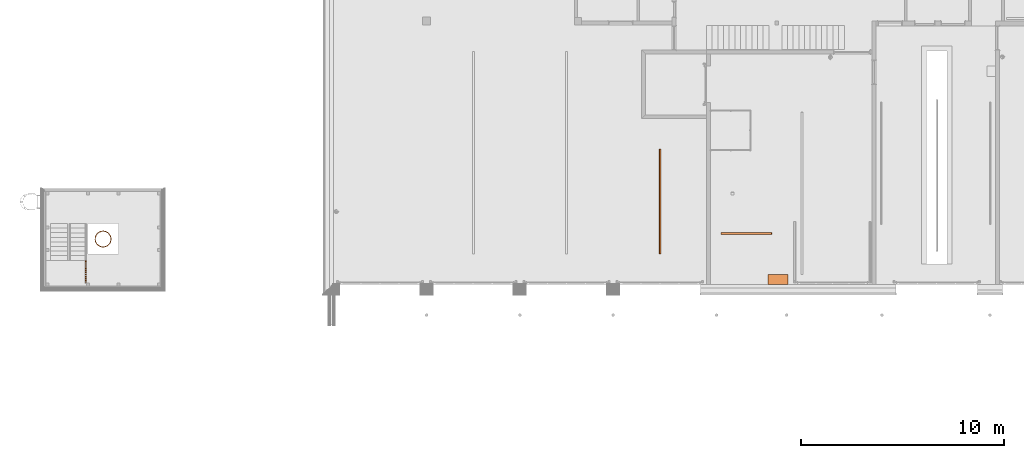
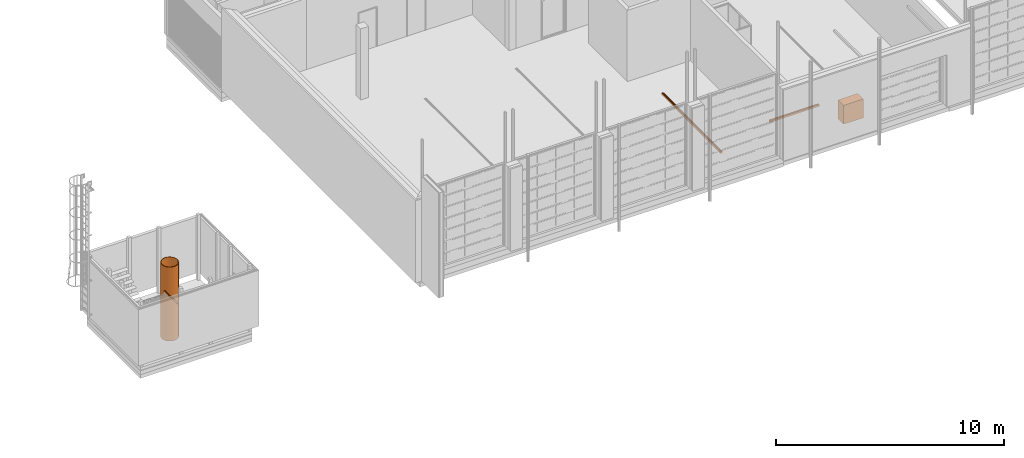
# One storey, part 103 of 112: 5 proxies, 1 element without a shape of its own.
"""IFC2X3 building model written with IfcOpenShell, lengths in millimetres."""

from ifc_helpers import new_model, entity, si_unit, converted_unit, derived_unit, money_unit, direction, frame, origin_with_axes, place, context, subcontext, project, spatial, faceted_brep, material, type_object, element, aggregate, save


model = new_model("IFC2X3")

# Units and contexts
model_context = context("Model", 3, precision=0.01, world=origin_with_axes(), true_north=direction((0.0, 1.0)))
body_context = subcontext(model_context, "Body", "Model", "MODEL_VIEW")
ifc_project = project(units=[si_unit("LENGTHUNIT", "METRE", prefix="MILLI"), si_unit("AREAUNIT", "SQUARE_METRE"), si_unit("VOLUMEUNIT", "CUBIC_METRE"), converted_unit("PLANEANGLEUNIT", "DEGREE", entity("IfcPlaneAngleMeasure", 0.0174532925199), si_unit("PLANEANGLEUNIT", "RADIAN"), dimensions=[0, 0, 0, 0, 0, 0, 0]), si_unit("SOLIDANGLEUNIT", "STERADIAN"), money_unit("EUR"), converted_unit("TIMEUNIT", "Year", entity("IfcTimeMeasure", 31556926.0), si_unit("TIMEUNIT", "SECOND"), dimensions=[0, 0, 1, 0, 0, 0, 0]), si_unit("MASSUNIT", "GRAM", prefix="KILO"), si_unit("THERMODYNAMICTEMPERATUREUNIT", "DEGREE_CELSIUS"), si_unit("LUMINOUSINTENSITYUNIT", "LUMEN"), si_unit("ENERGYUNIT", "JOULE", prefix="MEGA"), derived_unit("THERMALCONDUCTANCEUNIT", [(si_unit("POWERUNIT", "WATT"), 1), (si_unit("LENGTHUNIT", "METRE"), -1), (si_unit("THERMODYNAMICTEMPERATUREUNIT", "KELVIN"), -1)]), derived_unit("SPECIFICHEATCAPACITYUNIT", [(si_unit("ENERGYUNIT", "JOULE"), 1), (si_unit("MASSUNIT", "GRAM", prefix="KILO"), -1), (si_unit("THERMODYNAMICTEMPERATUREUNIT", "KELVIN"), -1)]), derived_unit("MASSDENSITYUNIT", [(si_unit("MASSUNIT", "GRAM", prefix="KILO"), 1), (si_unit("VOLUMEUNIT", "CUBIC_METRE"), -1)])], contexts=[model_context])

# Site, building, storey
site_placement = place(None, origin_with_axes())
site = spatial("IfcSite", under=ifc_project, at=site_placement, Name="Politse- ja Piirivalveameti ning Päästeameti ühishoone", CompositionType="ELEMENT")
building_placement = place(site_placement, origin_with_axes())
building = spatial("IfcBuilding", under=site, at=building_placement, Name="Politse- ja Piirivalveameti ning Päästeameti ühishoone", CompositionType="ELEMENT")
storey_placement = place(building_placement, origin_with_axes())
storey = spatial("IfcBuildingStorey", under=building, at=storey_placement, Name="Esimene korrus", CompositionType="ELEMENT", Elevation=0.0)

# Proxies
building_element_proxy_type_1 = type_object("IfcBuildingElementProxyType", Name="Cube 23", PredefinedType="NOTDEFINED")
proxy_1_placement = place(storey_placement, frame((21434.1436325, 0.0, 500.0), z_axis=(0.0, 0.0, 1.0), x_axis=(1.0, 0.0, 0.0)))
element("IfcBuildingElementProxy", 1, at=proxy_1_placement, inside=storey, type_object=building_element_proxy_type_1, Name="Survepesur", context=body_context, shape_type="Brep", body=[
    faceted_brep([(1000.0, 0.0, 0.0), (0.0, 0.0, 0.0), (0.0, 500.0, 0.0), (1000.0, 500.0, 0.0), (1000.0, 0.0, 1000.0), (0.0, 0.0, 1000.0), (0.0, 500.0, 1000.0), (1000.0, 500.0, 1000.0)], [[[0, 1, 2, 3]], [[1, 0, 4, 5]], [[2, 1, 5, 6]], [[3, 2, 6, 7]], [[0, 3, 7, 4]], [[5, 4, 7, 6]]]),
])
building_element_proxy_type_2 = type_object("IfcBuildingElementProxyType", Name="Grid 23", PredefinedType="NOTDEFINED")
proxy_2_placement = place(storey_placement, frame((21626.7299619, 2458.00929481, -100.0), z_axis=(0.0, 0.0, 1.0), x_axis=(0.0, 1.0, 0.0)))
element("IfcBuildingElementProxy", 2, at=proxy_2_placement, inside=storey, type_object=building_element_proxy_type_2, Name="Äravoolurenn (109)", context=body_context, shape_type="Brep", body=[
    faceted_brep([(0.0, 0.0, 0.0), (5.0, 5.0, 0.0), (5.0, 5.0, 100.0), (0.0, 0.0, 100.0), (0.0, 2500.0, 0.0), (5.0, 2495.0, 0.0), (5.0, 1251.0, 0.0), (5.0, 1249.0, 0.0), (5.0, 1249.0, 100.0), (5.0, 1251.0, 100.0), (5.0, 2495.0, 100.0), (0.0, 2500.0, 100.0)], [[[0, 1, 2, 3]], [[0, 4, 5, 6, 7, 1]], [[1, 7, 8, 2]], [[3, 2, 8, 9, 10, 11]], [[4, 0, 3, 11]], [[5, 4, 11, 10]], [[6, 5, 10, 9]], [[7, 6, 9, 8]]]),
    faceted_brep([(100.0, 2500.0, 0.0), (95.0, 2495.0, 0.0), (95.0, 2495.0, 100.0), (100.0, 2500.0, 100.0), (100.0, 0.0, 0.0), (95.0, 5.0, 0.0), (95.0, 1249.0, 0.0), (95.0, 1251.0, 0.0), (95.0, 1251.0, 100.0), (95.0, 1249.0, 100.0), (95.0, 5.0, 100.0), (100.0, 0.0, 100.0)], [[[0, 1, 2, 3]], [[0, 4, 5, 6, 7, 1]], [[1, 7, 8, 2]], [[3, 2, 8, 9, 10, 11]], [[4, 0, 3, 11]], [[5, 4, 11, 10]], [[6, 5, 10, 9]], [[7, 6, 9, 8]]]),
    faceted_brep([(100.0, 0.0, 0.0), (95.0, 5.0, 0.0), (95.0, 5.0, 100.0), (100.0, 0.0, 100.0), (0.0, 0.0, 0.0), (5.0, 5.0, 0.0), (33.1666666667, 5.0, 0.0), (35.1666666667, 5.0, 0.0), (64.8333333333, 5.0, 0.0), (66.8333333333, 5.0, 0.0), (66.8333333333, 5.0, 100.0), (64.8333333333, 5.0, 100.0), (35.1666666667, 5.0, 100.0), (33.1666666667, 5.0, 100.0), (5.0, 5.0, 100.0), (0.0, 0.0, 100.0)], [[[0, 1, 2, 3]], [[0, 4, 5, 6, 7, 8, 9, 1]], [[1, 9, 10, 2]], [[3, 2, 10, 11, 12, 13, 14, 15]], [[4, 0, 3, 15]], [[5, 4, 15, 14]], [[6, 5, 14, 13]], [[7, 6, 13, 12]], [[8, 7, 12, 11]], [[9, 8, 11, 10]]]),
    faceted_brep([(0.0, 2500.0, 0.0), (5.0, 2495.0, 0.0), (5.0, 2495.0, 100.0), (0.0, 2500.0, 100.0), (100.0, 2500.0, 0.0), (95.0, 2495.0, 0.0), (66.8333333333, 2495.0, 0.0), (64.8333333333, 2495.0, 0.0), (35.1666666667, 2495.0, 0.0), (33.1666666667, 2495.0, 0.0), (33.1666666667, 2495.0, 100.0), (35.1666666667, 2495.0, 100.0), (64.8333333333, 2495.0, 100.0), (66.8333333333, 2495.0, 100.0), (95.0, 2495.0, 100.0), (100.0, 2500.0, 100.0)], [[[0, 1, 2, 3]], [[0, 4, 5, 6, 7, 8, 9, 1]], [[1, 9, 10, 2]], [[3, 2, 10, 11, 12, 13, 14, 15]], [[4, 0, 3, 15]], [[5, 4, 15, 14]], [[6, 5, 14, 13]], [[7, 6, 13, 12]], [[8, 7, 12, 11]], [[9, 8, 11, 10]]]),
    faceted_brep([(33.1666666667, 5.0, 0.0), (35.1666666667, 5.0, 0.0), (35.1666666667, 5.0, 100.0), (33.1666666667, 5.0, 100.0), (33.1666666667, 1249.0, 0.0), (33.1666666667, 1251.0, 0.0), (33.1666666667, 2495.0, 0.0), (35.1666666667, 2495.0, 0.0), (35.1666666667, 1251.0, 0.0), (35.1666666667, 1249.0, 0.0), (35.1666666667, 1249.0, 100.0), (35.1666666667, 1251.0, 100.0), (35.1666666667, 2495.0, 100.0), (33.1666666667, 2495.0, 100.0), (33.1666666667, 1251.0, 100.0), (33.1666666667, 1249.0, 100.0)], [[[0, 1, 2, 3]], [[0, 4, 5, 6, 7, 8, 9, 1]], [[1, 9, 10, 2]], [[3, 2, 10, 11, 12, 13, 14, 15]], [[4, 0, 3, 15]], [[5, 4, 15, 14]], [[6, 5, 14, 13]], [[7, 6, 13, 12]], [[8, 7, 12, 11]], [[9, 8, 11, 10]]]),
    faceted_brep([(64.8333333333, 5.0, 0.0), (66.8333333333, 5.0, 0.0), (66.8333333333, 5.0, 100.0), (64.8333333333, 5.0, 100.0), (64.8333333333, 1249.0, 0.0), (64.8333333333, 1251.0, 0.0), (64.8333333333, 2495.0, 0.0), (66.8333333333, 2495.0, 0.0), (66.8333333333, 1251.0, 0.0), (66.8333333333, 1249.0, 0.0), (66.8333333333, 1249.0, 100.0), (66.8333333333, 1251.0, 100.0), (66.8333333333, 2495.0, 100.0), (64.8333333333, 2495.0, 100.0), (64.8333333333, 1251.0, 100.0), (64.8333333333, 1249.0, 100.0)], [[[0, 1, 2, 3]], [[0, 4, 5, 6, 7, 8, 9, 1]], [[1, 9, 10, 2]], [[3, 2, 10, 11, 12, 13, 14, 15]], [[4, 0, 3, 15]], [[5, 4, 15, 14]], [[6, 5, 14, 13]], [[7, 6, 13, 12]], [[8, 7, 12, 11]], [[9, 8, 11, 10]]]),
    faceted_brep([(33.1666666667, 1249.0, 0.0), (33.1666666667, 1251.0, 0.0), (33.1666666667, 1251.0, 100.0), (33.1666666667, 1249.0, 100.0), (5.0, 1249.0, 0.0), (5.0, 1251.0, 0.0), (5.0, 1251.0, 100.0), (5.0, 1249.0, 100.0)], [[[0, 1, 2, 3]], [[0, 4, 5, 1]], [[1, 5, 6, 2]], [[3, 2, 6, 7]], [[4, 0, 3, 7]], [[5, 4, 7, 6]]]),
    faceted_brep([(64.8333333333, 1249.0, 0.0), (64.8333333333, 1251.0, 0.0), (64.8333333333, 1251.0, 100.0), (64.8333333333, 1249.0, 100.0), (35.1666666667, 1249.0, 0.0), (35.1666666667, 1251.0, 0.0), (35.1666666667, 1251.0, 100.0), (35.1666666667, 1249.0, 100.0)], [[[0, 1, 2, 3]], [[0, 4, 5, 1]], [[1, 5, 6, 2]], [[3, 2, 6, 7]], [[4, 0, 3, 7]], [[5, 4, 7, 6]]]),
    faceted_brep([(95.0, 1249.0, 0.0), (95.0, 1251.0, 0.0), (95.0, 1251.0, 100.0), (95.0, 1249.0, 100.0), (66.8333333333, 1249.0, 0.0), (66.8333333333, 1251.0, 0.0), (66.8333333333, 1251.0, 100.0), (66.8333333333, 1249.0, 100.0)], [[[0, 1, 2, 3]], [[0, 4, 5, 1]], [[1, 5, 6, 2]], [[3, 2, 6, 7]], [[4, 0, 3, 7]], [[5, 4, 7, 6]]]),
    faceted_brep([(5.0, 5.0, 43.65), (33.1666666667, 5.0, 43.65), (33.1666666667, 5.0, 56.35), (5.0, 5.0, 56.35), (5.0, 1249.0, 43.65), (33.1666666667, 1249.0, 43.65), (33.1666666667, 1249.0, 56.35), (5.0, 1249.0, 56.35)], [[[0, 1, 2, 3]], [[0, 4, 5, 1]], [[1, 5, 6, 2]], [[3, 2, 6, 7]], [[4, 0, 3, 7]], [[5, 4, 7, 6]]]),
    faceted_brep([(5.0, 1251.0, 43.65), (33.1666666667, 1251.0, 43.65), (33.1666666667, 1251.0, 56.35), (5.0, 1251.0, 56.35), (5.0, 2495.0, 43.65), (33.1666666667, 2495.0, 43.65), (33.1666666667, 2495.0, 56.35), (5.0, 2495.0, 56.35)], [[[0, 1, 2, 3]], [[0, 4, 5, 1]], [[1, 5, 6, 2]], [[3, 2, 6, 7]], [[4, 0, 3, 7]], [[5, 4, 7, 6]]]),
    faceted_brep([(35.1666666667, 5.0, 43.65), (64.8333333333, 5.0, 43.65), (64.8333333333, 5.0, 56.35), (35.1666666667, 5.0, 56.35), (35.1666666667, 1249.0, 43.65), (64.8333333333, 1249.0, 43.65), (64.8333333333, 1249.0, 56.35), (35.1666666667, 1249.0, 56.35)], [[[0, 1, 2, 3]], [[0, 4, 5, 1]], [[1, 5, 6, 2]], [[3, 2, 6, 7]], [[4, 0, 3, 7]], [[5, 4, 7, 6]]]),
    faceted_brep([(35.1666666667, 1251.0, 43.65), (64.8333333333, 1251.0, 43.65), (64.8333333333, 1251.0, 56.35), (35.1666666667, 1251.0, 56.35), (35.1666666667, 2495.0, 43.65), (64.8333333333, 2495.0, 43.65), (64.8333333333, 2495.0, 56.35), (35.1666666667, 2495.0, 56.35)], [[[0, 1, 2, 3]], [[0, 4, 5, 1]], [[1, 5, 6, 2]], [[3, 2, 6, 7]], [[4, 0, 3, 7]], [[5, 4, 7, 6]]]),
    faceted_brep([(66.8333333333, 5.0, 43.65), (95.0, 5.0, 43.65), (95.0, 5.0, 56.35), (66.8333333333, 5.0, 56.35), (66.8333333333, 1249.0, 43.65), (95.0, 1249.0, 43.65), (95.0, 1249.0, 56.35), (66.8333333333, 1249.0, 56.35)], [[[0, 1, 2, 3]], [[0, 4, 5, 1]], [[1, 5, 6, 2]], [[3, 2, 6, 7]], [[4, 0, 3, 7]], [[5, 4, 7, 6]]]),
    faceted_brep([(66.8333333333, 1251.0, 43.65), (95.0, 1251.0, 43.65), (95.0, 1251.0, 56.35), (66.8333333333, 1251.0, 56.35), (66.8333333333, 2495.0, 43.65), (95.0, 2495.0, 43.65), (95.0, 2495.0, 56.35), (66.8333333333, 2495.0, 56.35)], [[[0, 1, 2, 3]], [[0, 4, 5, 1]], [[1, 5, 6, 2]], [[3, 2, 6, 7]], [[4, 0, 3, 7]], [[5, 4, 7, 6]]]),
])
proxy_3_placement = place(storey_placement, frame((16070.5391714, 1502.5, -100.0), z_axis=(0.0, 0.0, 1.0), x_axis=(1.0, 0.0, 0.0)))
element("IfcBuildingElementProxy", 3, at=proxy_3_placement, inside=storey, type_object=building_element_proxy_type_2, Name="Äravoolurenn (105)", context=body_context, shape_type="Brep", body=[
    faceted_brep([(0.0, 0.0, 0.0), (5.0, 5.0, 0.0), (5.0, 5.0, 100.0), (0.0, 0.0, 100.0), (0.0, 5175.01986111, 0.0), (5.0, 5170.01986111, 0.0), (5.0, 2588.50993056, 0.0), (5.0, 2586.50993056, 0.0), (5.0, 2586.50993056, 100.0), (5.0, 2588.50993056, 100.0), (5.0, 5170.01986111, 100.0), (0.0, 5175.01986111, 100.0)], [[[0, 1, 2, 3]], [[0, 4, 5, 6, 7, 1]], [[1, 7, 8, 2]], [[3, 2, 8, 9, 10, 11]], [[4, 0, 3, 11]], [[5, 4, 11, 10]], [[6, 5, 10, 9]], [[7, 6, 9, 8]]]),
    faceted_brep([(100.0, 5175.01986111, 0.0), (95.0, 5170.01986111, 0.0), (95.0, 5170.01986111, 100.0), (100.0, 5175.01986111, 100.0), (100.0, 0.0, 0.0), (95.0, 5.0, 0.0), (95.0, 2586.50993056, 0.0), (95.0, 2588.50993056, 0.0), (95.0, 2588.50993056, 100.0), (95.0, 2586.50993056, 100.0), (95.0, 5.0, 100.0), (100.0, 0.0, 100.0)], [[[0, 1, 2, 3]], [[0, 4, 5, 6, 7, 1]], [[1, 7, 8, 2]], [[3, 2, 8, 9, 10, 11]], [[4, 0, 3, 11]], [[5, 4, 11, 10]], [[6, 5, 10, 9]], [[7, 6, 9, 8]]]),
    faceted_brep([(100.0, 0.0, 0.0), (95.0, 5.0, 0.0), (95.0, 5.0, 100.0), (100.0, 0.0, 100.0), (0.0, 0.0, 0.0), (5.0, 5.0, 0.0), (25.25, 5.0, 0.0), (27.25, 5.0, 0.0), (49.0, 5.0, 0.0), (51.0, 5.0, 0.0), (72.75, 5.0, 0.0), (74.75, 5.0, 0.0), (74.75, 5.0, 100.0), (72.75, 5.0, 100.0), (51.0, 5.0, 100.0), (49.0, 5.0, 100.0), (27.25, 5.0, 100.0), (25.25, 5.0, 100.0), (5.0, 5.0, 100.0), (0.0, 0.0, 100.0)], [[[0, 1, 2, 3]], [[0, 4, 5, 6, 7, 8, 9, 10, 11, 1]], [[1, 11, 12, 2]], [[3, 2, 12, 13, 14, 15, 16, 17, 18, 19]], [[4, 0, 3, 19]], [[5, 4, 19, 18]], [[6, 5, 18, 17]], [[7, 6, 17, 16]], [[8, 7, 16, 15]], [[9, 8, 15, 14]], [[10, 9, 14, 13]], [[11, 10, 13, 12]]]),
    faceted_brep([(0.0, 5175.01986111, 0.0), (5.0, 5170.01986111, 0.0), (5.0, 5170.01986111, 100.0), (0.0, 5175.01986111, 100.0), (100.0, 5175.01986111, 0.0), (95.0, 5170.01986111, 0.0), (74.75, 5170.01986111, 0.0), (72.75, 5170.01986111, 0.0), (51.0, 5170.01986111, 0.0), (49.0, 5170.01986111, 0.0), (27.25, 5170.01986111, 0.0), (25.25, 5170.01986111, 0.0), (25.25, 5170.01986111, 100.0), (27.25, 5170.01986111, 100.0), (49.0, 5170.01986111, 100.0), (51.0, 5170.01986111, 100.0), (72.75, 5170.01986111, 100.0), (74.75, 5170.01986111, 100.0), (95.0, 5170.01986111, 100.0), (100.0, 5175.01986111, 100.0)], [[[0, 1, 2, 3]], [[0, 4, 5, 6, 7, 8, 9, 10, 11, 1]], [[1, 11, 12, 2]], [[3, 2, 12, 13, 14, 15, 16, 17, 18, 19]], [[4, 0, 3, 19]], [[5, 4, 19, 18]], [[6, 5, 18, 17]], [[7, 6, 17, 16]], [[8, 7, 16, 15]], [[9, 8, 15, 14]], [[10, 9, 14, 13]], [[11, 10, 13, 12]]]),
    faceted_brep([(25.25, 5.0, 0.0), (27.25, 5.0, 0.0), (27.25, 5.0, 100.0), (25.25, 5.0, 100.0), (25.25, 2586.50993056, 0.0), (25.25, 2588.50993056, 0.0), (25.25, 5170.01986111, 0.0), (27.25, 5170.01986111, 0.0), (27.25, 2588.50993056, 0.0), (27.25, 2586.50993056, 0.0), (27.25, 2586.50993056, 100.0), (27.25, 2588.50993056, 100.0), (27.25, 5170.01986111, 100.0), (25.25, 5170.01986111, 100.0), (25.25, 2588.50993056, 100.0), (25.25, 2586.50993056, 100.0)], [[[0, 1, 2, 3]], [[0, 4, 5, 6, 7, 8, 9, 1]], [[1, 9, 10, 2]], [[3, 2, 10, 11, 12, 13, 14, 15]], [[4, 0, 3, 15]], [[5, 4, 15, 14]], [[6, 5, 14, 13]], [[7, 6, 13, 12]], [[8, 7, 12, 11]], [[9, 8, 11, 10]]]),
    faceted_brep([(49.0, 5.0, 0.0), (51.0, 5.0, 0.0), (51.0, 5.0, 100.0), (49.0, 5.0, 100.0), (49.0, 2586.50993056, 0.0), (49.0, 2588.50993056, 0.0), (49.0, 5170.01986111, 0.0), (51.0, 5170.01986111, 0.0), (51.0, 2588.50993056, 0.0), (51.0, 2586.50993056, 0.0), (51.0, 2586.50993056, 100.0), (51.0, 2588.50993056, 100.0), (51.0, 5170.01986111, 100.0), (49.0, 5170.01986111, 100.0), (49.0, 2588.50993056, 100.0), (49.0, 2586.50993056, 100.0)], [[[0, 1, 2, 3]], [[0, 4, 5, 6, 7, 8, 9, 1]], [[1, 9, 10, 2]], [[3, 2, 10, 11, 12, 13, 14, 15]], [[4, 0, 3, 15]], [[5, 4, 15, 14]], [[6, 5, 14, 13]], [[7, 6, 13, 12]], [[8, 7, 12, 11]], [[9, 8, 11, 10]]]),
    faceted_brep([(72.75, 5.0, 0.0), (74.75, 5.0, 0.0), (74.75, 5.0, 100.0), (72.75, 5.0, 100.0), (72.75, 2586.50993056, 0.0), (72.75, 2588.50993056, 0.0), (72.75, 5170.01986111, 0.0), (74.75, 5170.01986111, 0.0), (74.75, 2588.50993056, 0.0), (74.75, 2586.50993056, 0.0), (74.75, 2586.50993056, 100.0), (74.75, 2588.50993056, 100.0), (74.75, 5170.01986111, 100.0), (72.75, 5170.01986111, 100.0), (72.75, 2588.50993056, 100.0), (72.75, 2586.50993056, 100.0)], [[[0, 1, 2, 3]], [[0, 4, 5, 6, 7, 8, 9, 1]], [[1, 9, 10, 2]], [[3, 2, 10, 11, 12, 13, 14, 15]], [[4, 0, 3, 15]], [[5, 4, 15, 14]], [[6, 5, 14, 13]], [[7, 6, 13, 12]], [[8, 7, 12, 11]], [[9, 8, 11, 10]]]),
    faceted_brep([(25.25, 2586.50993056, 0.0), (25.25, 2588.50993056, 0.0), (25.25, 2588.50993056, 100.0), (25.25, 2586.50993056, 100.0), (5.0, 2586.50993056, 0.0), (5.0, 2588.50993056, 0.0), (5.0, 2588.50993056, 100.0), (5.0, 2586.50993056, 100.0)], [[[0, 1, 2, 3]], [[0, 4, 5, 1]], [[1, 5, 6, 2]], [[3, 2, 6, 7]], [[4, 0, 3, 7]], [[5, 4, 7, 6]]]),
    faceted_brep([(49.0, 2586.50993056, 0.0), (49.0, 2588.50993056, 0.0), (49.0, 2588.50993056, 100.0), (49.0, 2586.50993056, 100.0), (27.25, 2586.50993056, 0.0), (27.25, 2588.50993056, 0.0), (27.25, 2588.50993056, 100.0), (27.25, 2586.50993056, 100.0)], [[[0, 1, 2, 3]], [[0, 4, 5, 1]], [[1, 5, 6, 2]], [[3, 2, 6, 7]], [[4, 0, 3, 7]], [[5, 4, 7, 6]]]),
    faceted_brep([(72.75, 2586.50993056, 0.0), (72.75, 2588.50993056, 0.0), (72.75, 2588.50993056, 100.0), (72.75, 2586.50993056, 100.0), (51.0, 2586.50993056, 0.0), (51.0, 2588.50993056, 0.0), (51.0, 2588.50993056, 100.0), (51.0, 2586.50993056, 100.0)], [[[0, 1, 2, 3]], [[0, 4, 5, 1]], [[1, 5, 6, 2]], [[3, 2, 6, 7]], [[4, 0, 3, 7]], [[5, 4, 7, 6]]]),
    faceted_brep([(95.0, 2586.50993056, 0.0), (95.0, 2588.50993056, 0.0), (95.0, 2588.50993056, 100.0), (95.0, 2586.50993056, 100.0), (74.75, 2586.50993056, 0.0), (74.75, 2588.50993056, 0.0), (74.75, 2588.50993056, 100.0), (74.75, 2586.50993056, 100.0)], [[[0, 1, 2, 3]], [[0, 4, 5, 1]], [[1, 5, 6, 2]], [[3, 2, 6, 7]], [[4, 0, 3, 7]], [[5, 4, 7, 6]]]),
    faceted_brep([(5.0, 5.0, 43.65), (25.25, 5.0, 43.65), (25.25, 5.0, 56.35), (5.0, 5.0, 56.35), (5.0, 2586.50993056, 43.65), (25.25, 2586.50993056, 43.65), (25.25, 2586.50993056, 56.35), (5.0, 2586.50993056, 56.35)], [[[0, 1, 2, 3]], [[0, 4, 5, 1]], [[1, 5, 6, 2]], [[3, 2, 6, 7]], [[4, 0, 3, 7]], [[5, 4, 7, 6]]]),
    faceted_brep([(5.0, 2588.50993056, 43.65), (25.25, 2588.50993056, 43.65), (25.25, 2588.50993056, 56.35), (5.0, 2588.50993056, 56.35), (5.0, 5170.01986111, 43.65), (25.25, 5170.01986111, 43.65), (25.25, 5170.01986111, 56.35), (5.0, 5170.01986111, 56.35)], [[[0, 1, 2, 3]], [[0, 4, 5, 1]], [[1, 5, 6, 2]], [[3, 2, 6, 7]], [[4, 0, 3, 7]], [[5, 4, 7, 6]]]),
    faceted_brep([(27.25, 5.0, 43.65), (49.0, 5.0, 43.65), (49.0, 5.0, 56.35), (27.25, 5.0, 56.35), (27.25, 2586.50993056, 43.65), (49.0, 2586.50993056, 43.65), (49.0, 2586.50993056, 56.35), (27.25, 2586.50993056, 56.35)], [[[0, 1, 2, 3]], [[0, 4, 5, 1]], [[1, 5, 6, 2]], [[3, 2, 6, 7]], [[4, 0, 3, 7]], [[5, 4, 7, 6]]]),
    faceted_brep([(27.25, 2588.50993056, 43.65), (49.0, 2588.50993056, 43.65), (49.0, 2588.50993056, 56.35), (27.25, 2588.50993056, 56.35), (27.25, 5170.01986111, 43.65), (49.0, 5170.01986111, 43.65), (49.0, 5170.01986111, 56.35), (27.25, 5170.01986111, 56.35)], [[[0, 1, 2, 3]], [[0, 4, 5, 1]], [[1, 5, 6, 2]], [[3, 2, 6, 7]], [[4, 0, 3, 7]], [[5, 4, 7, 6]]]),
    faceted_brep([(51.0, 5.0, 43.65), (72.75, 5.0, 43.65), (72.75, 5.0, 56.35), (51.0, 5.0, 56.35), (51.0, 2586.50993056, 43.65), (72.75, 2586.50993056, 43.65), (72.75, 2586.50993056, 56.35), (51.0, 2586.50993056, 56.35)], [[[0, 1, 2, 3]], [[0, 4, 5, 1]], [[1, 5, 6, 2]], [[3, 2, 6, 7]], [[4, 0, 3, 7]], [[5, 4, 7, 6]]]),
    faceted_brep([(51.0, 2588.50993056, 43.65), (72.75, 2588.50993056, 43.65), (72.75, 2588.50993056, 56.35), (51.0, 2588.50993056, 56.35), (51.0, 5170.01986111, 43.65), (72.75, 5170.01986111, 43.65), (72.75, 5170.01986111, 56.35), (51.0, 5170.01986111, 56.35)], [[[0, 1, 2, 3]], [[0, 4, 5, 1]], [[1, 5, 6, 2]], [[3, 2, 6, 7]], [[4, 0, 3, 7]], [[5, 4, 7, 6]]]),
    faceted_brep([(74.75, 5.0, 43.65), (95.0, 5.0, 43.65), (95.0, 5.0, 56.35), (74.75, 5.0, 56.35), (74.75, 2586.50993056, 43.65), (95.0, 2586.50993056, 43.65), (95.0, 2586.50993056, 56.35), (74.75, 2586.50993056, 56.35)], [[[0, 1, 2, 3]], [[0, 4, 5, 1]], [[1, 5, 6, 2]], [[3, 2, 6, 7]], [[4, 0, 3, 7]], [[5, 4, 7, 6]]]),
    faceted_brep([(74.75, 2588.50993056, 43.65), (95.0, 2588.50993056, 43.65), (95.0, 2588.50993056, 56.35), (74.75, 2588.50993056, 56.35), (74.75, 5170.01986111, 43.65), (95.0, 5170.01986111, 43.65), (95.0, 5170.01986111, 56.35), (74.75, 5170.01986111, 56.35)], [[[0, 1, 2, 3]], [[0, 4, 5, 1]], [[1, 5, 6, 2]], [[3, 2, 6, 7]], [[4, 0, 3, 7]], [[5, 4, 7, 6]]]),
])

# Railing, proxy
railing_type = type_object("IfcRailingType", Name="Railing Type", PredefinedType="NOTDEFINED")
railing_placement = place(storey_placement, frame((-12182.0653854, 2843.99975677, 1650.00001255), z_axis=(0.0, 0.0, 1.0), x_axis=(1.0, 0.0, 0.0)))
railing = element("IfcRailing", 4, at=railing_placement, inside=storey, type_object=railing_type, Name="PIIRE 2", PredefinedType="NOTDEFINED")
ifc_material = material(Name="Teras - Konstruktsioon")
building_element_proxy_type_3 = type_object("IfcBuildingElementProxyType", Name="IfcBuildingElementProxy", PredefinedType="NOTDEFINED")
proxy_4_placement = place(railing_placement, frame((-25.0, -2210.16168561, 973.074175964), z_axis=(0.0, 0.0, 1.0), x_axis=(1.0, 0.0, 0.0)))
proxy_4 = element("IfcBuildingElementProxy", 5, at=proxy_4_placement, type_object=building_element_proxy_type_3, material=ifc_material, Name="Piirde Ülaosa - 001", context=body_context, shape_type="Brep", body=[
    faceted_brep([(-25.0, 561.661928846, 26.9258240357), (-25.0, 561.661928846, 16.9258240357), (-25.0, -561.661928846, 16.9258240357), (-25.0, -561.661928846, 26.9258240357), (25.0, 561.661928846, 26.9258240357), (25.0, 561.661928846, 16.9258240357), (25.0, -561.661928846, 16.9258240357), (25.0, -561.661928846, 26.9258240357)], [[[0, 1, 2, 3]], [[0, 4, 5, 1]], [[1, 5, 6, 2]], [[3, 2, 6, 7]], [[4, 0, 3, 7]], [[5, 4, 7, 6]]]),
])
aggregate(railing, [proxy_4])

# Proxy
building_element_proxy_type_4 = type_object("IfcBuildingElementProxyType", Name="Cylinder Shell 23", PredefinedType="NOTDEFINED")
proxy_5_placement = place(storey_placement, frame((-11356.8493859, 2240.95580916, -699.951131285), z_axis=(0.0, 0.0, 1.0), x_axis=(1.0, 0.0, 0.0)))
element("IfcBuildingElementProxy", 6, at=proxy_5_placement, inside=storey, type_object=building_element_proxy_type_4, Name="PLAST TORU HARJUTUSTORNIS", context=body_context, shape_type="Brep", body=[
    faceted_brep([(400.0, 0.0, 0.0), (393.923101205, 69.4592710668, 0.0), (393.923101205, 69.4592710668, 3960.95113129), (400.0, 0.0, 3960.95113129), (393.923101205, -69.4592710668, 0.0), (375.877048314, -136.80805733, 0.0), (346.410161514, -200.0, 0.0), (306.417777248, -257.115043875, 0.0), (257.115043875, -306.417777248, 0.0), (200.0, -346.410161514, 0.0), (136.80805733, -375.877048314, 0.0), (69.4592710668, -393.923101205, 0.0), (0.0, -400.0, 0.0), (-69.4592710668, -393.923101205, 0.0), (-136.80805733, -375.877048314, 0.0), (-200.0, -346.410161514, 0.0), (-257.115043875, -306.417777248, 0.0), (-306.417777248, -257.115043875, 0.0), (-346.410161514, -200.0, 0.0), (-375.877048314, -136.80805733, 0.0), (-393.923101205, -69.4592710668, 0.0), (-400.0, 0.0, 0.0), (-393.923101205, 69.4592710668, 0.0), (-375.877048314, 136.80805733, 0.0), (-346.410161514, 200.0, 0.0), (-306.417777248, 257.115043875, 0.0), (-257.115043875, 306.417777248, 0.0), (-200.0, 346.410161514, 0.0), (-136.80805733, 375.877048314, 0.0), (-69.4592710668, 393.923101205, 0.0), (0.0, 400.0, 0.0), (69.4592710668, 393.923101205, 0.0), (136.80805733, 375.877048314, 0.0), (200.0, 346.410161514, 0.0), (257.115043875, 306.417777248, 0.0), (306.417777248, 257.115043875, 0.0), (346.410161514, 200.0, 0.0), (375.877048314, 136.80805733, 0.0), (380.0, 0.0, 0.0), (374.226946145, 65.9863075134, 0.0), (357.083195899, 129.967654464, 0.0), (329.089653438, 190.0, 0.0), (291.096888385, 244.259291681, 0.0), (244.259291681, 291.096888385, 0.0), (190.0, 329.089653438, 0.0), (129.967654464, 357.083195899, 0.0), (65.9863075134, 374.226946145, 0.0), (0.0, 380.0, 0.0), (-65.9863075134, 374.226946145, 0.0), (-129.967654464, 357.083195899, 0.0), (-190.0, 329.089653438, 0.0), (-244.259291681, 291.096888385, 0.0), (-291.096888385, 244.259291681, 0.0), (-329.089653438, 190.0, 0.0), (-357.083195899, 129.967654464, 0.0), (-374.226946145, 65.9863075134, 0.0), (-380.0, 0.0, 0.0), (-374.226946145, -65.9863075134, 0.0), (-357.083195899, -129.967654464, 0.0), (-329.089653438, -190.0, 0.0), (-291.096888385, -244.259291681, 0.0), (-244.259291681, -291.096888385, 0.0), (-190.0, -329.089653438, 0.0), (-129.967654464, -357.083195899, 0.0), (-65.9863075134, -374.226946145, 0.0), (0.0, -380.0, 0.0), (65.9863075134, -374.226946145, 0.0), (129.967654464, -357.083195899, 0.0), (190.0, -329.089653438, 0.0), (244.259291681, -291.096888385, 0.0), (291.096888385, -244.259291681, 0.0), (329.089653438, -190.0, 0.0), (357.083195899, -129.967654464, 0.0), (374.226946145, -65.9863075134, 0.0), (375.877048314, 136.80805733, 3960.95113129), (346.410161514, 200.0, 3960.95113129), (306.417777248, 257.115043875, 3960.95113129), (257.115043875, 306.417777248, 3960.95113129), (200.0, 346.410161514, 3960.95113129), (136.80805733, 375.877048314, 3960.95113129), (69.4592710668, 393.923101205, 3960.95113129), (0.0, 400.0, 3960.95113129), (-69.4592710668, 393.923101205, 3960.95113129), (-136.80805733, 375.877048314, 3960.95113129), (-200.0, 346.410161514, 3960.95113129), (-257.115043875, 306.417777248, 3960.95113129), (-306.417777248, 257.115043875, 3960.95113129), (-346.410161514, 200.0, 3960.95113129), (-375.877048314, 136.80805733, 3960.95113129), (-393.923101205, 69.4592710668, 3960.95113129), (-400.0, 0.0, 3960.95113129), (-393.923101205, -69.4592710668, 3960.95113129), (-375.877048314, -136.80805733, 3960.95113129), (-346.410161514, -200.0, 3960.95113129), (-306.417777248, -257.115043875, 3960.95113129), (-257.115043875, -306.417777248, 3960.95113129), (-200.0, -346.410161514, 3960.95113129), (-136.80805733, -375.877048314, 3960.95113129), (-69.4592710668, -393.923101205, 3960.95113129), (0.0, -400.0, 3960.95113129), (69.4592710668, -393.923101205, 3960.95113129), (136.80805733, -375.877048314, 3960.95113129), (200.0, -346.410161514, 3960.95113129), (257.115043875, -306.417777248, 3960.95113129), (306.417777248, -257.115043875, 3960.95113129), (346.410161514, -200.0, 3960.95113129), (375.877048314, -136.80805733, 3960.95113129), (393.923101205, -69.4592710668, 3960.95113129), (380.0, 0.0, 3960.95113129), (374.226946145, -65.9863075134, 3960.95113129), (357.083195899, -129.967654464, 3960.95113129), (329.089653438, -190.0, 3960.95113129), (291.096888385, -244.259291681, 3960.95113129), (244.259291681, -291.096888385, 3960.95113129), (190.0, -329.089653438, 3960.95113129), (129.967654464, -357.083195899, 3960.95113129), (65.9863075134, -374.226946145, 3960.95113129), (0.0, -380.0, 3960.95113129), (-65.9863075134, -374.226946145, 3960.95113129), (-129.967654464, -357.083195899, 3960.95113129), (-190.0, -329.089653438, 3960.95113129), (-244.259291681, -291.096888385, 3960.95113129), (-291.096888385, -244.259291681, 3960.95113129), (-329.089653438, -190.0, 3960.95113129), (-357.083195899, -129.967654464, 3960.95113129), (-374.226946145, -65.9863075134, 3960.95113129), (-380.0, 0.0, 3960.95113129), (-374.226946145, 65.9863075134, 3960.95113129), (-357.083195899, 129.967654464, 3960.95113129), (-329.089653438, 190.0, 3960.95113129), (-291.096888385, 244.259291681, 3960.95113129), (-244.259291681, 291.096888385, 3960.95113129), (-190.0, 329.089653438, 3960.95113129), (-129.967654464, 357.083195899, 3960.95113129), (-65.9863075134, 374.226946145, 3960.95113129), (0.0, 380.0, 3960.95113129), (65.9863075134, 374.226946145, 3960.95113129), (129.967654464, 357.083195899, 3960.95113129), (190.0, 329.089653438, 3960.95113129), (244.259291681, 291.096888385, 3960.95113129), (291.096888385, 244.259291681, 3960.95113129), (329.089653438, 190.0, 3960.95113129), (357.083195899, 129.967654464, 3960.95113129), (374.226946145, 65.9863075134, 3960.95113129)], [[[0, 1, 2, 3]], [[0, 4, 5, 6, 7, 8, 9, 10, 11, 12, 13, 14, 15, 16, 17, 18, 19, 20, 21, 22, 23, 24, 25, 26, 27, 28, 29, 30, 31, 32, 33, 34, 35, 36, 37, 1], [38, 39, 40, 41, 42, 43, 44, 45, 46, 47, 48, 49, 50, 51, 52, 53, 54, 55, 56, 57, 58, 59, 60, 61, 62, 63, 64, 65, 66, 67, 68, 69, 70, 71, 72, 73]], [[1, 37, 74, 2]], [[3, 2, 74, 75, 76, 77, 78, 79, 80, 81, 82, 83, 84, 85, 86, 87, 88, 89, 90, 91, 92, 93, 94, 95, 96, 97, 98, 99, 100, 101, 102, 103, 104, 105, 106, 107], [108, 109, 110, 111, 112, 113, 114, 115, 116, 117, 118, 119, 120, 121, 122, 123, 124, 125, 126, 127, 128, 129, 130, 131, 132, 133, 134, 135, 136, 137, 138, 139, 140, 141, 142, 143]], [[4, 0, 3, 107]], [[5, 4, 107, 106]], [[6, 5, 106, 105]], [[7, 6, 105, 104]], [[8, 7, 104, 103]], [[9, 8, 103, 102]], [[10, 9, 102, 101]], [[11, 10, 101, 100]], [[12, 11, 100, 99]], [[13, 12, 99, 98]], [[14, 13, 98, 97]], [[15, 14, 97, 96]], [[16, 15, 96, 95]], [[17, 16, 95, 94]], [[18, 17, 94, 93]], [[19, 18, 93, 92]], [[20, 19, 92, 91]], [[21, 20, 91, 90]], [[22, 21, 90, 89]], [[23, 22, 89, 88]], [[24, 23, 88, 87]], [[25, 24, 87, 86]], [[26, 25, 86, 85]], [[27, 26, 85, 84]], [[28, 27, 84, 83]], [[29, 28, 83, 82]], [[30, 29, 82, 81]], [[31, 30, 81, 80]], [[32, 31, 80, 79]], [[33, 32, 79, 78]], [[34, 33, 78, 77]], [[35, 34, 77, 76]], [[36, 35, 76, 75]], [[37, 36, 75, 74]], [[39, 38, 108, 143]], [[40, 39, 143, 142]], [[41, 40, 142, 141]], [[42, 41, 141, 140]], [[43, 42, 140, 139]], [[44, 43, 139, 138]], [[45, 44, 138, 137]], [[46, 45, 137, 136]], [[47, 46, 136, 135]], [[48, 47, 135, 134]], [[49, 48, 134, 133]], [[50, 49, 133, 132]], [[51, 50, 132, 131]], [[52, 51, 131, 130]], [[53, 52, 130, 129]], [[54, 53, 129, 128]], [[55, 54, 128, 127]], [[56, 55, 127, 126]], [[57, 56, 126, 125]], [[58, 57, 125, 124]], [[59, 58, 124, 123]], [[60, 59, 123, 122]], [[61, 60, 122, 121]], [[62, 61, 121, 120]], [[63, 62, 120, 119]], [[64, 63, 119, 118]], [[65, 64, 118, 117]], [[66, 65, 117, 116]], [[67, 66, 116, 115]], [[68, 67, 115, 114]], [[69, 68, 114, 113]], [[70, 69, 113, 112]], [[71, 70, 112, 111]], [[72, 71, 111, 110]], [[73, 72, 110, 109]], [[38, 73, 109, 108]]]),
])

save(model, "model.ifc")
